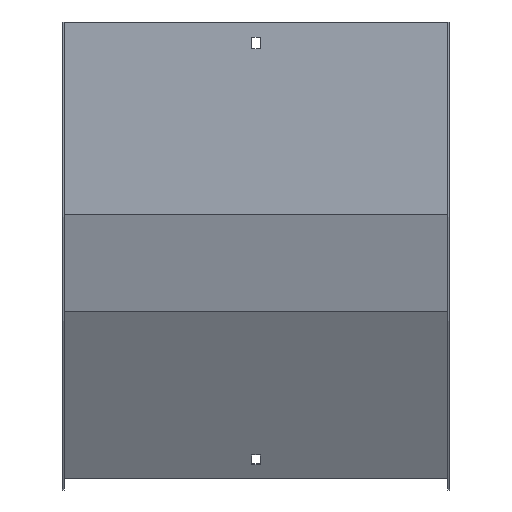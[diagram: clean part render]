
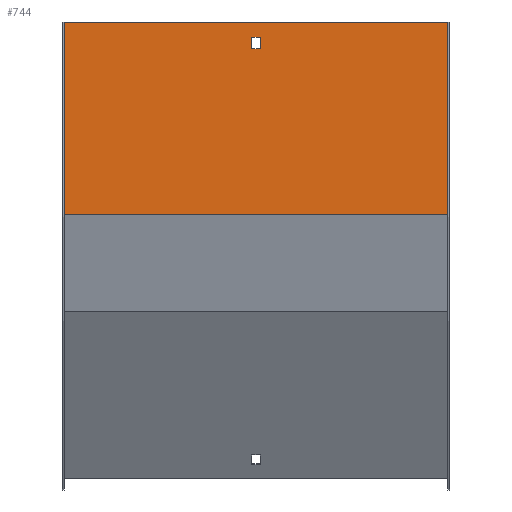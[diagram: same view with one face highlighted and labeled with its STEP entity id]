
A CAD part, front view. The second image highlights one B-rep face of the part: STEP entity #744.
In plain terms, the highlighted planar face has unit normal (0, -1, 0).
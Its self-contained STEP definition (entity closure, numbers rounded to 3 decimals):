
#3 = DIRECTION ( 'NONE',  ( 0., 0., 1. ) ) ;
#7 = DIRECTION ( 'NONE',  ( -1., 0., 0. ) ) ;
#8 = VERTEX_POINT ( 'NONE', #503 ) ;
#9 = CARTESIAN_POINT ( 'NONE',  ( -3.25, -1.5, 0. ) ) ;
#14 = LINE ( 'NONE', #9, #386 ) ;
#21 = LINE ( 'NONE', #287, #651 ) ;
#24 = CARTESIAN_POINT ( 'NONE',  ( -3.25, -1.5, -21. ) ) ;
#28 = ORIENTED_EDGE ( 'NONE', *, *, #676, .F. ) ;
#36 = FACE_OUTER_BOUND ( 'NONE', #257, .T. ) ;
#70 = EDGE_CURVE ( 'NONE', #8, #814, #396, .T. ) ;
#91 = CARTESIAN_POINT ( 'NONE',  ( 151.5, -1.5, -21. ) ) ;
#97 = LINE ( 'NONE', #701, #653 ) ;
#102 = AXIS2_PLACEMENT_3D ( 'NONE', #566, #818, #370 ) ;
#138 = CARTESIAN_POINT ( 'NONE',  ( 151.5, -1.5, -12. ) ) ;
#140 = ORIENTED_EDGE ( 'NONE', *, *, #222, .F. ) ;
#159 = VERTEX_POINT ( 'NONE', #591 ) ;
#161 = FACE_BOUND ( 'NONE', #477, .T. ) ;
#172 = VECTOR ( 'NONE', #3, 1000. ) ;
#206 = DIRECTION ( 'NONE',  ( -1., 0., 0. ) ) ;
#210 = EDGE_CURVE ( 'NONE', #814, #231, #14, .T. ) ;
#215 = VERTEX_POINT ( 'NONE', #234 ) ;
#222 = EDGE_CURVE ( 'NONE', #231, #792, #411, .T. ) ;
#226 = VECTOR ( 'NONE', #374, 1000. ) ;
#231 = VERTEX_POINT ( 'NONE', #24 ) ;
#234 = CARTESIAN_POINT ( 'NONE',  ( -150., -1.5, -150.097 ) ) ;
#249 = CARTESIAN_POINT ( 'NONE',  ( -150., -1.5, 0. ) ) ;
#254 = VECTOR ( 'NONE', #475, 1000. ) ;
#257 = EDGE_LOOP ( 'NONE', ( #423, #739, #28, #391 ) ) ;
#287 = CARTESIAN_POINT ( 'NONE',  ( 150., -1.5, 0. ) ) ;
#291 = DIRECTION ( 'NONE',  ( 0., 0., -1. ) ) ;
#297 = CARTESIAN_POINT ( 'NONE',  ( 3.25, -1.5, -21. ) ) ;
#301 = PLANE ( 'NONE',  #102 ) ;
#304 = VERTEX_POINT ( 'NONE', #494 ) ;
#336 = LINE ( 'NONE', #603, #750 ) ;
#364 = LINE ( 'NONE', #249, #226 ) ;
#366 = DIRECTION ( 'NONE',  ( -1., 0., 0. ) ) ;
#370 = DIRECTION ( 'NONE',  ( 0., 0., 1. ) ) ;
#374 = DIRECTION ( 'NONE',  ( 0., 0., -1. ) ) ;
#386 = VECTOR ( 'NONE', #748, 1000. ) ;
#391 = ORIENTED_EDGE ( 'NONE', *, *, #734, .T. ) ;
#396 = LINE ( 'NONE', #138, #816 ) ;
#399 = EDGE_CURVE ( 'NONE', #304, #215, #364, .T. ) ;
#411 = LINE ( 'NONE', #91, #254 ) ;
#423 = ORIENTED_EDGE ( 'NONE', *, *, #399, .T. ) ;
#462 = CARTESIAN_POINT ( 'NONE',  ( 150., -1.5, -150.097 ) ) ;
#467 = ORIENTED_EDGE ( 'NONE', *, *, #70, .F. ) ;
#475 = DIRECTION ( 'NONE',  ( 1., 0., 0. ) ) ;
#477 = EDGE_LOOP ( 'NONE', ( #825, #140, #621, #467 ) ) ;
#494 = CARTESIAN_POINT ( 'NONE',  ( -150., -1.5, 0. ) ) ;
#503 = CARTESIAN_POINT ( 'NONE',  ( 3.25, -1.5, -12. ) ) ;
#506 = CARTESIAN_POINT ( 'NONE',  ( -3.25, -1.5, -12. ) ) ;
#555 = EDGE_CURVE ( 'NONE', #613, #215, #336, .T. ) ;
#566 = CARTESIAN_POINT ( 'NONE',  ( 151.5, -1.5, 0. ) ) ;
#591 = CARTESIAN_POINT ( 'NONE',  ( 150., -1.5, 0. ) ) ;
#603 = CARTESIAN_POINT ( 'NONE',  ( 151.5, -1.5, -150.097 ) ) ;
#613 = VERTEX_POINT ( 'NONE', #462 ) ;
#621 = ORIENTED_EDGE ( 'NONE', *, *, #210, .F. ) ;
#651 = VECTOR ( 'NONE', #291, 1000. ) ;
#653 = VECTOR ( 'NONE', #366, 1000. ) ;
#656 = EDGE_CURVE ( 'NONE', #792, #8, #732, .T. ) ;
#674 = CARTESIAN_POINT ( 'NONE',  ( 3.25, -1.5, 0. ) ) ;
#676 = EDGE_CURVE ( 'NONE', #159, #613, #21, .T. ) ;
#701 = CARTESIAN_POINT ( 'NONE',  ( 151.5, -1.5, 0. ) ) ;
#732 = LINE ( 'NONE', #674, #172 ) ;
#734 = EDGE_CURVE ( 'NONE', #159, #304, #97, .T. ) ;
#739 = ORIENTED_EDGE ( 'NONE', *, *, #555, .F. ) ;
#744 = ADVANCED_FACE ( 'NONE', ( #36, #161 ), #301, .F. ) ;
#748 = DIRECTION ( 'NONE',  ( 0., 0., -1. ) ) ;
#750 = VECTOR ( 'NONE', #7, 1000. ) ;
#792 = VERTEX_POINT ( 'NONE', #297 ) ;
#814 = VERTEX_POINT ( 'NONE', #506 ) ;
#816 = VECTOR ( 'NONE', #206, 1000. ) ;
#818 = DIRECTION ( 'NONE',  ( 0., 1., 0. ) ) ;
#825 = ORIENTED_EDGE ( 'NONE', *, *, #656, .F. ) ;
